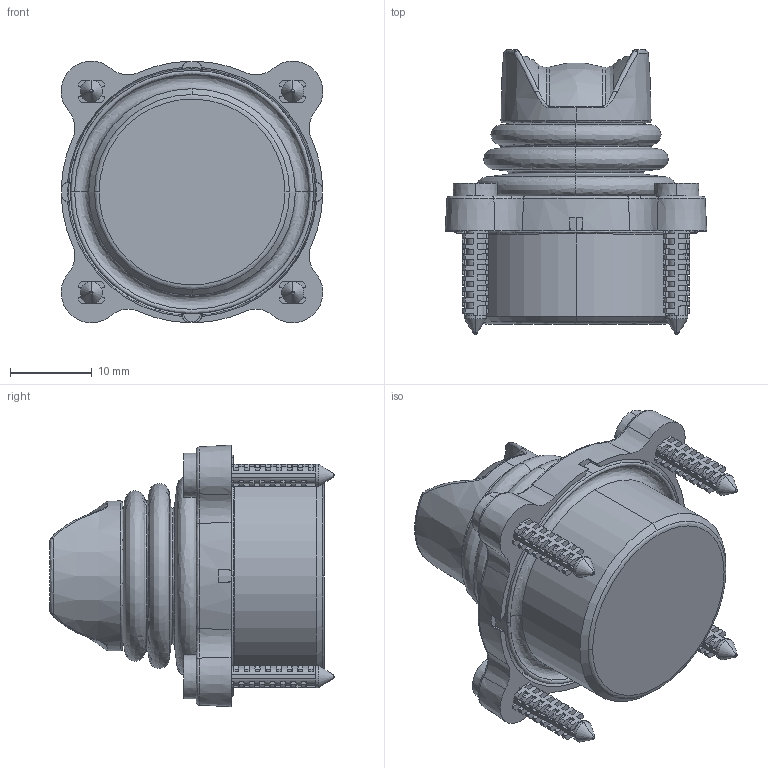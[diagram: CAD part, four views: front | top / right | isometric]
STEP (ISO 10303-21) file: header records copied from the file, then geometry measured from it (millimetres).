
FILE_DESCRIPTION (( 'STEP AP214' ), '1' );
FILE_NAME ('TRY14-DropIn-WingedCap.STEP', '2012-09-24T13:37:41', ( 'P700' ), ( 'Esprimo' ), 'SwSTEP 2.0', 'SolidWorks 2012', '' );
FILE_SCHEMA (( 'AUTOMOTIVE_DESIGN' ));
Length unit declared in the file: inch
Products named in the file (1): TRY14-DropIn-WingedCap
Bounding box: 32.09 x 34.88 x 32.1 mm (x, y, z)
Volume: 14815.8 mm3; surface area: 7087.1 mm2
Topology: 1 solids, 1 shells, 1088 faces, 3087 edges, 2005 vertices
Faces by surface type: plane 747, cylinder 159, bspline 110, cone 72
Entity records: 40851 total; most frequent: CARTESIAN_POINT 12497, ORIENTED_EDGE 6154, DIRECTION 4608, EDGE_CURVE 3077, VECTOR 2032, LINE 2032, VERTEX_POINT 2005, AXIS2_PLACEMENT_3D 1288
